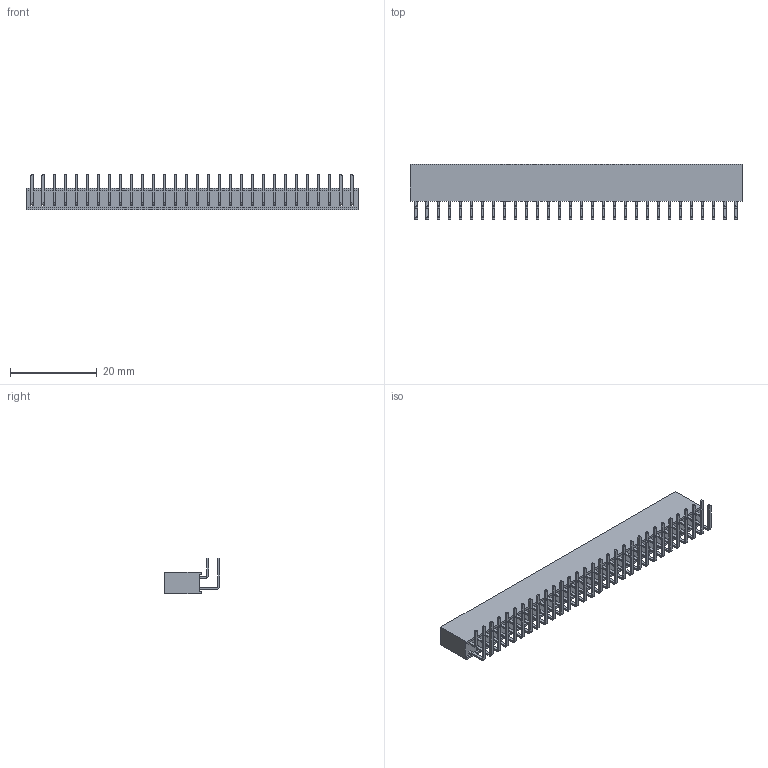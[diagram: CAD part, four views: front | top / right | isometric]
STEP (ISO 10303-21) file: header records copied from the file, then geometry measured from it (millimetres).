
FILE_DESCRIPTION (( 'STEP AP203' ), '1' );
FILE_NAME ('PM254-2-30-W-8.5 (2.54邧齬 俔渀 齬譫-HCTL).STEP', '2026-04-23T02:46:07', ( '' ), ( '' ), 'SwSTEP 2.0', 'SolidWorks 2025', '' );
FILE_SCHEMA (( 'CONFIG_CONTROL_DESIGN' ));
Length unit declared in the file: millimetre
Products named in the file (1): PM254-2-30-W-8.5 (2.54双排 弯针 排母-HCTL)
Bounding box: 76.6 x 12.7 x 8.2 mm (x, y, z)
Volume: 3075.8 mm3; surface area: 4629.4 mm2
Topology: 1 solids, 1 shells, 1150 faces, 3324 edges, 2056 vertices
Faces by surface type: plane 910, cylinder 240
Entity records: 37385 total; most frequent: ORIENTED_EDGE 6648, CARTESIAN_POINT 6531, DIRECTION 6106, EDGE_CURVE 3324, VECTOR 2844, LINE 2844, VERTEX_POINT 2056, AXIS2_PLACEMENT_3D 1631
